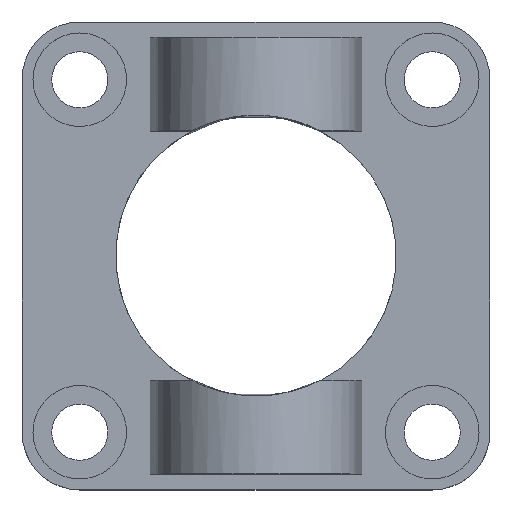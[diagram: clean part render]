
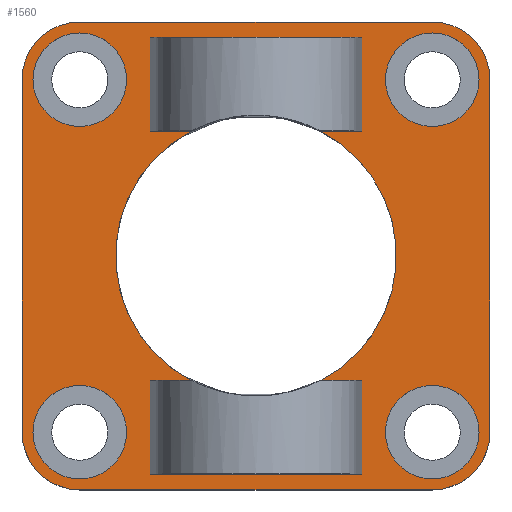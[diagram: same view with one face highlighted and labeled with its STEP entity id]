
A CAD part, top view. The second image highlights one B-rep face of the part: STEP entity #1560.
In plain terms, the highlighted planar face has unit normal (0, 0, 1).
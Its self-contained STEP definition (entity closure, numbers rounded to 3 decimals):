
#49=CARTESIAN_POINT('',(37.5,-28.25,11.0));
#50=VERTEX_POINT('',#49);
#51=CARTESIAN_POINT('',(28.25,-37.5,11.0));
#52=VERTEX_POINT('',#51);
#53=CARTESIAN_POINT('',(28.25,-28.25,11.0));
#54=DIRECTION('',(0.0,0.0,-1.));
#55=DIRECTION('',(0.707,-0.707,0.0));
#56=AXIS2_PLACEMENT_3D('',#53,#54,#55);
#57=CIRCLE('',#56,9.25);
#58=EDGE_CURVE('',#50,#52,#57,.T.);
#100=CARTESIAN_POINT('',(37.5,28.25,11.0));
#101=VERTEX_POINT('',#100);
#108=CARTESIAN_POINT('',(37.5,28.25,11.0));
#109=DIRECTION('',(0.0,-1.0,0.0));
#110=VECTOR('',#109,56.5);
#111=LINE('',#108,#110);
#112=EDGE_CURVE('',#101,#50,#111,.T.);
#236=CARTESIAN_POINT('',(-37.5,28.25,11.0));
#237=VERTEX_POINT('',#236);
#238=CARTESIAN_POINT('',(-28.25,37.5,11.0));
#239=VERTEX_POINT('',#238);
#240=CARTESIAN_POINT('',(-28.25,28.25,11.0));
#241=DIRECTION('',(0.0,0.0,-1.));
#242=DIRECTION('',(-0.707,0.707,0.0));
#243=AXIS2_PLACEMENT_3D('',#240,#241,#242);
#244=CIRCLE('',#243,9.25);
#245=EDGE_CURVE('',#237,#239,#244,.T.);
#269=CARTESIAN_POINT('',(28.25,37.5,11.0));
#270=VERTEX_POINT('',#269);
#271=CARTESIAN_POINT('',(-28.25,37.5,11.0));
#272=DIRECTION('',(1.0,0.0,0.0));
#273=VECTOR('',#272,56.5);
#274=LINE('',#271,#273);
#275=EDGE_CURVE('',#239,#270,#274,.T.);
#292=CARTESIAN_POINT('',(28.25,28.25,11.0));
#293=DIRECTION('',(0.0,0.0,-1.));
#294=DIRECTION('',(0.707,0.707,0.0));
#295=AXIS2_PLACEMENT_3D('',#292,#293,#294);
#296=CIRCLE('',#295,9.25);
#297=EDGE_CURVE('',#270,#101,#296,.T.);
#310=CARTESIAN_POINT('',(-28.25,-37.5,11.0));
#311=VERTEX_POINT('',#310);
#312=CARTESIAN_POINT('',(-37.5,-28.25,11.0));
#313=VERTEX_POINT('',#312);
#314=CARTESIAN_POINT('',(-28.25,-28.25,11.0));
#315=DIRECTION('',(0.0,0.0,-1.));
#316=DIRECTION('',(-0.707,-0.707,0.0));
#317=AXIS2_PLACEMENT_3D('',#314,#315,#316);
#318=CIRCLE('',#317,9.25);
#319=EDGE_CURVE('',#311,#313,#318,.T.);
#345=CARTESIAN_POINT('',(-37.5,-28.25,11.0));
#346=DIRECTION('',(0.0,1.0,0.0));
#347=VECTOR('',#346,56.5);
#348=LINE('',#345,#347);
#349=EDGE_CURVE('',#313,#237,#348,.T.);
#380=CARTESIAN_POINT('',(35.75,-28.25,11.0));
#381=VERTEX_POINT('',#380);
#382=CARTESIAN_POINT('',(28.25,-28.25,11.0));
#383=DIRECTION('',(0.0,0.0,-1.0));
#384=DIRECTION('',(1.0,0.0,0.0));
#385=AXIS2_PLACEMENT_3D('',#382,#383,#384);
#386=CIRCLE('',#385,7.5);
#387=EDGE_CURVE('',#381,#381,#386,.T.);
#449=CARTESIAN_POINT('',(35.75,28.25,11.0));
#450=VERTEX_POINT('',#449);
#451=CARTESIAN_POINT('',(28.25,28.25,11.0));
#452=DIRECTION('',(0.0,0.0,-1.0));
#453=DIRECTION('',(1.0,0.0,0.0));
#454=AXIS2_PLACEMENT_3D('',#451,#452,#453);
#455=CIRCLE('',#454,7.5);
#456=EDGE_CURVE('',#450,#450,#455,.T.);
#518=CARTESIAN_POINT('',(-20.75,28.25,11.0));
#519=VERTEX_POINT('',#518);
#520=CARTESIAN_POINT('',(-28.25,28.25,11.0));
#521=DIRECTION('',(0.0,0.0,-1.0));
#522=DIRECTION('',(1.0,0.0,0.0));
#523=AXIS2_PLACEMENT_3D('',#520,#521,#522);
#524=CIRCLE('',#523,7.5);
#525=EDGE_CURVE('',#519,#519,#524,.T.);
#587=CARTESIAN_POINT('',(-20.75,-28.25,11.0));
#588=VERTEX_POINT('',#587);
#589=CARTESIAN_POINT('',(-28.25,-28.25,11.0));
#590=DIRECTION('',(0.0,0.0,-1.0));
#591=DIRECTION('',(1.0,0.0,0.0));
#592=AXIS2_PLACEMENT_3D('',#589,#590,#591);
#593=CIRCLE('',#592,7.5);
#594=EDGE_CURVE('',#588,#588,#593,.T.);
#1054=CARTESIAN_POINT('',(-10.308,20.0,11.));
#1055=VERTEX_POINT('',#1054);
#1064=CARTESIAN_POINT('',(-10.308,-20.0,11.));
#1065=VERTEX_POINT('',#1064);
#1066=CARTESIAN_POINT('',(0.0,0.0,11.));
#1067=DIRECTION('',(0.0,0.0,-1.0));
#1068=DIRECTION('',(-1.0,0.0,0.0));
#1069=AXIS2_PLACEMENT_3D('',#1066,#1067,#1068);
#1070=CIRCLE('',#1069,22.5);
#1071=EDGE_CURVE('',#1065,#1055,#1070,.T.);
#1108=CARTESIAN_POINT('',(10.308,-20.0,11.));
#1109=VERTEX_POINT('',#1108);
#1116=CARTESIAN_POINT('',(10.308,20.0,11.));
#1117=VERTEX_POINT('',#1116);
#1118=CARTESIAN_POINT('',(0.0,0.0,11.));
#1119=DIRECTION('',(0.0,0.0,-1.0));
#1120=DIRECTION('',(-1.0,0.0,0.0));
#1121=AXIS2_PLACEMENT_3D('',#1118,#1119,#1120);
#1122=CIRCLE('',#1121,22.5);
#1123=EDGE_CURVE('',#1117,#1109,#1122,.T.);
#1226=CARTESIAN_POINT('',(-16.932,-20.0,11.));
#1227=VERTEX_POINT('',#1226);
#1228=CARTESIAN_POINT('',(-10.308,-20.0,11.));
#1229=DIRECTION('',(-1.0,0.0,0.0));
#1230=VECTOR('',#1229,6.624);
#1231=LINE('',#1228,#1230);
#1232=EDGE_CURVE('',#1065,#1227,#1231,.T.);
#1251=CARTESIAN_POINT('',(16.932,-20.0,11.));
#1252=VERTEX_POINT('',#1251);
#1259=CARTESIAN_POINT('',(16.932,-20.0,11.));
#1260=DIRECTION('',(-1.0,0.0,0.0));
#1261=VECTOR('',#1260,6.624);
#1262=LINE('',#1259,#1261);
#1263=EDGE_CURVE('',#1252,#1109,#1262,.T.);
#1283=CARTESIAN_POINT('',(-16.932,20.0,11.));
#1284=VERTEX_POINT('',#1283);
#1291=CARTESIAN_POINT('',(-10.308,20.0,11.));
#1292=DIRECTION('',(-1.0,0.0,0.0));
#1293=VECTOR('',#1292,6.624);
#1294=LINE('',#1291,#1293);
#1295=EDGE_CURVE('',#1055,#1284,#1294,.T.);
#1306=CARTESIAN_POINT('',(16.932,20.0,11.));
#1307=VERTEX_POINT('',#1306);
#1308=CARTESIAN_POINT('',(16.932,20.0,11.));
#1309=DIRECTION('',(-1.0,0.0,0.0));
#1310=VECTOR('',#1309,6.624);
#1311=LINE('',#1308,#1310);
#1312=EDGE_CURVE('',#1307,#1117,#1311,.T.);
#1339=CARTESIAN_POINT('',(16.932,-35.0,11.0));
#1340=VERTEX_POINT('',#1339);
#1347=CARTESIAN_POINT('',(16.932,-20.0,11.));
#1348=DIRECTION('',(0.0,-1.0,0.0));
#1349=VECTOR('',#1348,15.0);
#1350=LINE('',#1347,#1349);
#1351=EDGE_CURVE('',#1252,#1340,#1350,.T.);
#1362=CARTESIAN_POINT('',(-16.932,-35.0,11.0));
#1363=VERTEX_POINT('',#1362);
#1364=CARTESIAN_POINT('',(-16.932,-35.0,11.0));
#1365=DIRECTION('',(0.0,1.0,0.0));
#1366=VECTOR('',#1365,15.0);
#1367=LINE('',#1364,#1366);
#1368=EDGE_CURVE('',#1363,#1227,#1367,.T.);
#1386=CARTESIAN_POINT('',(16.932,-35.0,11.0));
#1387=DIRECTION('',(-1.0,0.0,0.0));
#1388=VECTOR('',#1387,33.864);
#1389=LINE('',#1386,#1388);
#1390=EDGE_CURVE('',#1340,#1363,#1389,.T.);
#1406=CARTESIAN_POINT('',(16.932,35.0,11.0));
#1407=VERTEX_POINT('',#1406);
#1408=CARTESIAN_POINT('',(16.932,35.0,11.0));
#1409=DIRECTION('',(0.0,-1.0,0.0));
#1410=VECTOR('',#1409,15.0);
#1411=LINE('',#1408,#1410);
#1412=EDGE_CURVE('',#1407,#1307,#1411,.T.);
#1465=CARTESIAN_POINT('',(-16.932,35.0,11.0));
#1466=VERTEX_POINT('',#1465);
#1473=CARTESIAN_POINT('',(-16.932,20.0,11.));
#1474=DIRECTION('',(0.0,1.0,0.0));
#1475=VECTOR('',#1474,15.0);
#1476=LINE('',#1473,#1475);
#1477=EDGE_CURVE('',#1284,#1466,#1476,.T.);
#1488=CARTESIAN_POINT('',(-16.932,35.0,11.0));
#1489=DIRECTION('',(1.0,0.0,0.0));
#1490=VECTOR('',#1489,33.864);
#1491=LINE('',#1488,#1490);
#1492=EDGE_CURVE('',#1466,#1407,#1491,.T.);
#1508=CARTESIAN_POINT('',(28.25,-37.5,11.0));
#1509=DIRECTION('',(-1.0,0.0,0.0));
#1510=VECTOR('',#1509,56.5);
#1511=LINE('',#1508,#1510);
#1512=EDGE_CURVE('',#52,#311,#1511,.T.);
#1519=CARTESIAN_POINT('',(0.0,0.0,11.0));
#1520=DIRECTION('',(0.0,0.0,1.0));
#1521=DIRECTION('',(1.0,0.0,0.0));
#1522=AXIS2_PLACEMENT_3D('',#1519,#1520,#1521);
#1523=PLANE('',#1522);
#1524=ORIENTED_EDGE('',*,*,#58,.F.);
#1525=ORIENTED_EDGE('',*,*,#112,.F.);
#1526=ORIENTED_EDGE('',*,*,#297,.F.);
#1527=ORIENTED_EDGE('',*,*,#275,.F.);
#1528=ORIENTED_EDGE('',*,*,#245,.F.);
#1529=ORIENTED_EDGE('',*,*,#349,.F.);
#1530=ORIENTED_EDGE('',*,*,#319,.F.);
#1531=ORIENTED_EDGE('',*,*,#1512,.F.);
#1532=EDGE_LOOP('',(#1524,#1525,#1526,#1527,#1528,#1529,#1530,#1531));
#1533=FACE_OUTER_BOUND('',#1532,.T.);
#1534=ORIENTED_EDGE('',*,*,#387,.T.);
#1535=EDGE_LOOP('',(#1534));
#1536=FACE_BOUND('',#1535,.T.);
#1537=ORIENTED_EDGE('',*,*,#456,.T.);
#1538=EDGE_LOOP('',(#1537));
#1539=FACE_BOUND('',#1538,.T.);
#1540=ORIENTED_EDGE('',*,*,#525,.T.);
#1541=EDGE_LOOP('',(#1540));
#1542=FACE_BOUND('',#1541,.T.);
#1543=ORIENTED_EDGE('',*,*,#594,.T.);
#1544=EDGE_LOOP('',(#1543));
#1545=FACE_BOUND('',#1544,.T.);
#1546=ORIENTED_EDGE('',*,*,#1123,.T.);
#1547=ORIENTED_EDGE('',*,*,#1263,.F.);
#1548=ORIENTED_EDGE('',*,*,#1351,.T.);
#1549=ORIENTED_EDGE('',*,*,#1390,.T.);
#1550=ORIENTED_EDGE('',*,*,#1368,.T.);
#1551=ORIENTED_EDGE('',*,*,#1232,.F.);
#1552=ORIENTED_EDGE('',*,*,#1071,.T.);
#1553=ORIENTED_EDGE('',*,*,#1295,.T.);
#1554=ORIENTED_EDGE('',*,*,#1477,.T.);
#1555=ORIENTED_EDGE('',*,*,#1492,.T.);
#1556=ORIENTED_EDGE('',*,*,#1412,.T.);
#1557=ORIENTED_EDGE('',*,*,#1312,.T.);
#1558=EDGE_LOOP('',(#1546,#1547,#1548,#1549,#1550,#1551,#1552,#1553,#1554,#1555,#1556,#1557));
#1559=FACE_BOUND('',#1558,.T.);
#1560=ADVANCED_FACE('',(#1533,#1536,#1539,#1542,#1545,#1559),#1523,.T.);
